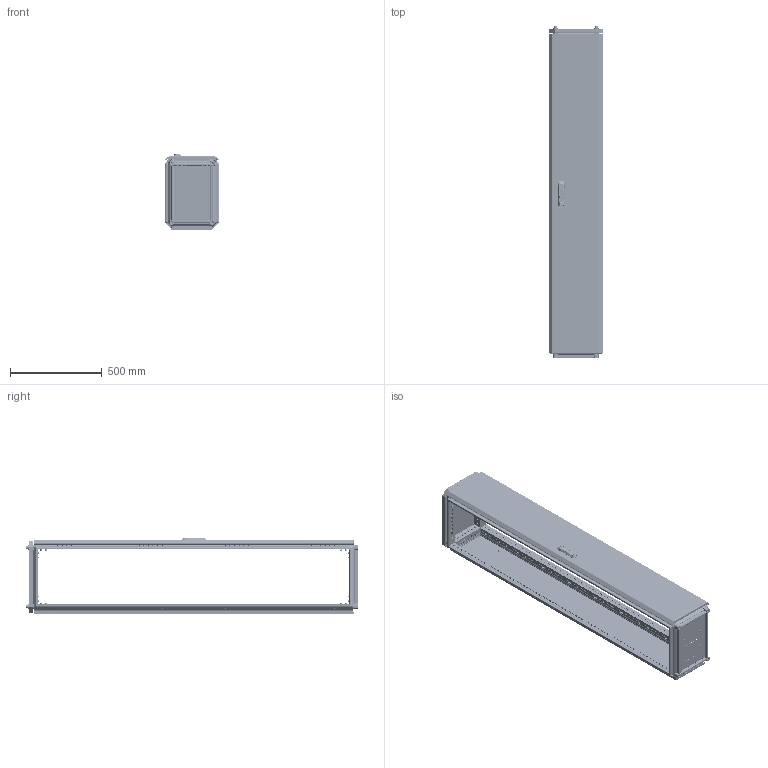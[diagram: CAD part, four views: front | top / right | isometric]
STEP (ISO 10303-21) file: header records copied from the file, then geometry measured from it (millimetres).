
FILE_DESCRIPTION (( 'STEP AP203' ), '1' );
FILE_NAME ('MA1.000.030418.10.00 AleSta1834 Øêàô AleSta 300õ400õ1800.STEP', '2024-08-23T07:20:13', ( '' ), ( '' ), 'SwSTEP 2.0', 'SolidWorks 2021', '' );
FILE_SCHEMA (( 'CONFIG_CONTROL_DESIGN' ));
Length unit declared in the file: millimetre
Products named in the file (50): ﾇﾀﾊﾋﾅﾏﾊﾀ ﾃﾀﾅﾗﾍﾀﾟ ﾘﾅﾑﾒﾈﾃﾐﾀﾍﾍﾀﾟ ﾑ ﾓﾌﾅﾍﾜﾘﾅﾍﾍﾛﾌ ﾁﾎﾐﾒﾎﾌ M4 X 11 (0.5-2.5 ﾌﾌ) HEX U-S ﾖﾈﾍﾊ; MA1.102.060620.00.01 Ïðîôèëü âåðòèêàëüíûé ñâàðíîé_03 L=1698 (‚=1800); 7380-2 ISO Âèíòû ñ ïîëóêðóãëîé ãîëîâêîé ñ ôëàíöåì ñ âíóòðåííèì øåñòèãðàííèêîì Ì4õ10; MA1.101.060620.20.00 Íèæíÿÿ ïàíåëü 600õ600_300å400; MA1.101.060620.10.01 Ïîëîòíî êðûøè 600õ600_300x400; MA1.101.060620.00.02 Ïðîôèëü ïîïåðå÷íûé ñâàðíîé_03 L=198 (˜=300); 諘蜱齁罻 022 瀁錒瀔隮; Øïèëüêà Ì6õ12_˜¯¨«ìª  Œ6å12; Âèíò_ðåçüáîâûäàâëèâàþùèé_Ì5õ12_DIN 7500E_00; ﾘ琺矜 65ﾃ 019 ﾃﾎﾑﾒ 6402-70_12; Øïèëüêà Ì6õ12_˜¯¨«ìª  Œ6å16; ﾘ琺矜 01.019 ﾃﾎﾑﾒ11371-78_12; MA1.200.060620.10.00 AleSta-PR206  Ïàíåëü çàäíÿÿ, äëÿ øêàôîâ ALESTA, 2000 x 600_1800å300; Øàéáà ñòîïîðíàÿ ñ íàðóæíûìè çóáöàìè SCHNORR, òèï VS öèíêîâûå õëîïüÿ Ì6 O6,4 ART 88121_Œ6; òÿãà_lg001-2.STEP_‚ =1800; MA1.101.060620.20.02 Çàêðûòèå íèæíåé ïàíåëè 600õ600_300å400; MA1.200.060620.31.00 Äâåðü ñïëîøíàÿ äëÿ øêàôîâ ALESTA ÂõØ 2000õ600_1800å300; MA1.200.060620.11.00 Ïàíåëü çàäíÿÿ, äëÿ øêàôîâ AleSta, 2000x600_1800å300; Âèíò ñàìîíàðåçàþùèé ñ ïîòàéíîé ãîëîâêîé Ì5x14 DIN 7500 M TORX, êëàññ ïðî÷íîñòè 8.8, îöèíêîâàííàÿ ñòàëü_Œ5å14; MA1.200.060620.31.05 Óãëîâîé óïîð äâåðíîé òÿãè; MA1.000.030418.10.00 AleSta1834 Øêàô AleSta 300õ400õ1800; MA1.102.060620.00.00 AleSta-VG2000 Ñòîéêè âåðòèêàëüíûå, Â=2000ìì  (4øò)_  300å400; MA1.101.060620.00.02 Ïðîôèëü ïîïåðå÷íûé ñâàðíîé_00 L=298 (˜=400); Ïåòëÿ íà äâåðü ï-îáðàçíàÿ; MA1.101.060620.20.01 Ïîëîòíî íèæíåé ïàíåëè 600õ600_300å400; Âèíò_ðåçüáîâûäàâëèâàþùèé_Ì5õ12_DIN 7500E_Œ5å12; Øïèëüêà Ì6õ12_˜¯¨«ìª  Œ6å20; MS463-2-3(1); MA1.100.060620.00.01 Ñîåäèíèòåëü óãëîâîé_00; MA1.101.060620.10.00 Êðûøà 600x600_300å400; Óïëîòíèòåëü ïàíåëè íèæíåé_300å400; MA1.200.060620.31.03 Ðåéêà íà äâåðü ãîðèçîíòàëüíàÿ Ø = 600_˜=300; äåðæàòåëü_êðóãëîé_òÿãèRG002-RG1010-2-i-RG1010-3-.stp; Ïðîáêà ïëàñòèêîâàÿ óíèâåðñàëüíàÿ ïîä îòâåðñòèå 4,5 ìì, ñåðèÿ ST, öâåò áåñöâåòíûé – ST4,5; Âèíò ðåçüáîâûäàâëèâàþùèé Ì6õ12 DIN 7500E_Œ6å10; MA1.200.060620.31.02 Ðåéêà íà äâåðü âåðòèêàëüíàÿ Â = 2000_‚=1800; Óïëîòíèòåëü ïàíåëè íèæíåé_   ‚=1800; Âèíò ñ âí. øåñòèãðàííèêîì M12 DIN912_•30; MA1.200.060620.30.00 AleSta-D20M600 Äâåðü ñïëîøíàÿ äëÿ øêàôîâ ALESTA ÂõØ 2000õ600_1800å300; Ãàéêà ñàìîêîíòðÿùàÿñÿ ñ íåéëîíîâîé âñòàâêîé Ì6 DIN 985, êëàññ ïðî÷íîñòè 8, îöèíêîâàííàÿ ñòàëü_Œ6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
Assembly tree (329 placements, depth 4):
  MA1.000.030418.10.00 AleSta1834 Øêàô AleSta 300õ400õ1800
    MA1.101.060620.00.00 AleSta-RB66 Êîìïëåêò êðûøà è îñíîâàíèå_  300x400
      MA1.101.060620.00.02 Ïðîôèëü ïîïåðå÷íûé ñâàðíîé_00 L=298 (˜=400)  x4
      MA1.101.060620.00.02 Ïðîôèëü ïîïåðå÷íûé ñâàðíîé_03 L=198 (˜=300)  x4
      MA1.101.060620.10.00 Êðûøà 600x600_300å400
        MA1.101.060620.10.01 Ïîëîòíî êðûøè 600õ600_300x400
        Øïèëüêà Ì6õ12_˜¯¨«ìª  Œ6å12  x4
        Óïëîòíèòåëü ïàíåëè íèæíåé_300å400
      MA1.101.060620.20.00 Íèæíÿÿ ïàíåëü 600õ600_300å400
        MA1.101.060620.20.01 Ïîëîòíî íèæíåé ïàíåëè 600õ600_300å400
        ﾇﾀﾊﾋﾅﾏﾊﾀ ﾃﾀﾅﾗﾍﾀﾟ ﾘﾅﾑﾒﾈﾃﾐﾀﾍﾍﾀﾟ ﾑ ﾓﾌﾅﾍﾜﾘﾅﾍﾍﾛﾌ ﾁﾎﾐﾒﾎﾌ M4 X 11 (0.5-2.5 ﾌﾌ) HEX U-S ﾖﾈﾍﾊ  x4
        MA1.101.060620.20.02 Çàêðûòèå íèæíåé ïàíåëè 600õ600_300å400  x2
        7380-2 ISO Âèíòû ñ ïîëóêðóãëîé ãîëîâêîé ñ ôëàíöåì ñ âíóòðåííèì øåñòèãðàííèêîì Ì4õ10  x4
      Âèíò_ðåçüáîâûäàâëèâàþùèé_Ì5õ12_DIN 7500E_Œ5å12  x8
      MA1.100.060620.00.01 Ñîåäèíèòåëü óãëîâîé_00  x8
      Âèíò ñ âí. øåñòèãðàííèêîì M12 DIN912_•30  x4
      Âèíò ðåçüáîâûäàâëèâàþùèé Ì6õ12 DIN 7500E_Œ6å10  x96
      ﾘ琺矜 01.019 ﾃﾎﾑﾒ11371-78_12  x4
      ﾘ琺矜 65ﾃ 019 ﾃﾎﾑﾒ 6402-70_12  x4
      Øàéáà ñòîïîðíàÿ ñ íàðóæíûìè çóáöàìè SCHNORR, òèï VS öèíêîâûå õëîïüÿ Ì6 O6,4 ART 88121_Œ6  x80
    MA1.102.060620.00.00 AleSta-VG2000 Ñòîéêè âåðòèêàëüíûå, Â=2000ìì  (4øò)_  300å400
      MA1.102.060620.00.01 Ïðîôèëü âåðòèêàëüíûé ñâàðíîé_03 L=1698 (‚=1800)  x4
    MA1.200.060620.10.00 AleSta-PR206  Ïàíåëü çàäíÿÿ, äëÿ øêàôîâ ALESTA, 2000 x 600_1800å300
      MA1.200.060620.11.00 Ïàíåëü çàäíÿÿ, äëÿ øêàôîâ AleSta, 2000x600_1800å300
        MA1.200.060620.11.01 Ïîëîòíî çàäíåé ïàíåëè 2000õ600_1800å300
        Óïëîòíèòåëü ïàíåëè íèæíåé_   ‚=1800
        Øïèëüêà Ì6õ12_˜¯¨«ìª  Œ6å12  x4
      Âèíò ñàìîíàðåçàþùèé ñ ïîòàéíîé ãîëîâêîé Ì5x14 DIN 7500 M TORX, êëàññ ïðî÷íîñòè 8.8, îöèíêîâàííàÿ ñòàëü_Œ5å14  x8
    MA1.200.060620.30.00 AleSta-D20M600 Äâåðü ñïëîøíàÿ äëÿ øêàôîâ ALESTA ÂõØ 2000õ600_1800å300
      MA1.200.060620.31.00 Äâåðü ñïëîøíàÿ äëÿ øêàôîâ ALESTA ÂõØ 2000õ600_1800å300
        MA1.200.060620.31.01 Ïîëîòíî äâåðè ñïëîøíîé 2000õ600_1800å300
        Óïëîòíèòåëü ïàíåëè íèæíåé_   ‚=1800
        Øïèëüêà Ì6õ12_˜¯¨«ìª  Œ6å20  x12
        Øïèëüêà Ì6õ12_˜¯¨«ìª  Œ6å16  x4
        Ïåòëÿ íà äâåðü ï-îáðàçíàÿ  x4
      MA1.200.060620.31.03 Ðåéêà íà äâåðü ãîðèçîíòàëüíàÿ Ø = 600_˜=300  x2
      諘蜱齁罻 022 瀁錒瀔隮  x4
      MA1.200.060620.31.02 Ðåéêà íà äâåðü âåðòèêàëüíàÿ Â = 2000_‚=1800  x2
      äåðæàòåëü_êðóãëîé_òÿãèRG002-RG1010-2-i-RG1010-3-.stp  x2
      òÿãà_lg001-2.STEP_‚ =1800  x2
      êðåïëåíèå_êðóãëîé_òÿãè_RG1020-1.stp  x2
      MS463-2-3(1)
      Ãàéêà ñàìîêîíòðÿùàÿñÿ ñ íåéëîíîâîé âñòàâêîé Ì6 DIN 985, êëàññ ïðî÷íîñòè 8, îöèíêîâàííàÿ ñòàëü_Œ6  x12
      Ãàéêà ñàìîêîíòðÿùàÿñÿ ñ íåéëîíîâîé âñòàâêîé Ì6 DIN 985, êëàññ ïðî÷íîñòè 8, îöèíêîâàííàÿ ñòàëü_Œ5  x2
      Áîëò øåñòèãðàííûé Ì5õ12 DIN 933, êëàññ ïðî÷íîñòè 8.8, îöèíêîâàííàÿ ñòàëü  x2
      MA1.200.060620.31.04 ðèãåëü çàìêà äâåðè
      MA1.200.060620.31.05 Óãëîâîé óïîð äâåðíîé òÿãè  x2
      Âèíò_ðåçüáîâûäàâëèâàþùèé_Ì5õ12_DIN 7500E_00  x2
      Íàâåñêà íà êîðïóñ ïîä êëåïêó  x4
      Îñü ïåòëè 4õ52_‚¨­â A.M4x0,5x40 ƒŽ‘’ 11644-75  x4
      Âèíò ñàìîíàðåçàþùèé ñ ïîòàéíîé ãîëîâêîé Ì5x14 DIN 7500 M TORX, êëàññ ïðî÷íîñòè 8.8, îöèíêîâàííàÿ ñòàëü_Œ5å12  x8
  Ïðîáêà ïëàñòèêîâàÿ óíèâåðñàëüíàÿ ïîä îòâåðñòèå 4,5 ìì, ñåðèÿ ST, öâåò áåñöâåòíûé – ST4,5
Bounding box: 292 x 1810.9 x 416.8 mm (x, y, z)
Volume: 5928271.2 mm3; surface area: 6668463.4 mm2
Topology: 356 solids, 370 shells, 22091 faces, 56506 edges, 35264 vertices
Faces by surface type: plane 13246, cylinder 6212, bspline 869, cone 837, torus 829, sphere 98
Entity records: 234282 total; most frequent: CARTESIAN_POINT 77181, ORIENTED_EDGE 29930, DIRECTION 29464, EDGE_CURVE 14982, AXIS2_PLACEMENT_3D 10170, VERTEX_POINT 9293, LINE 9124, VECTOR 9124
